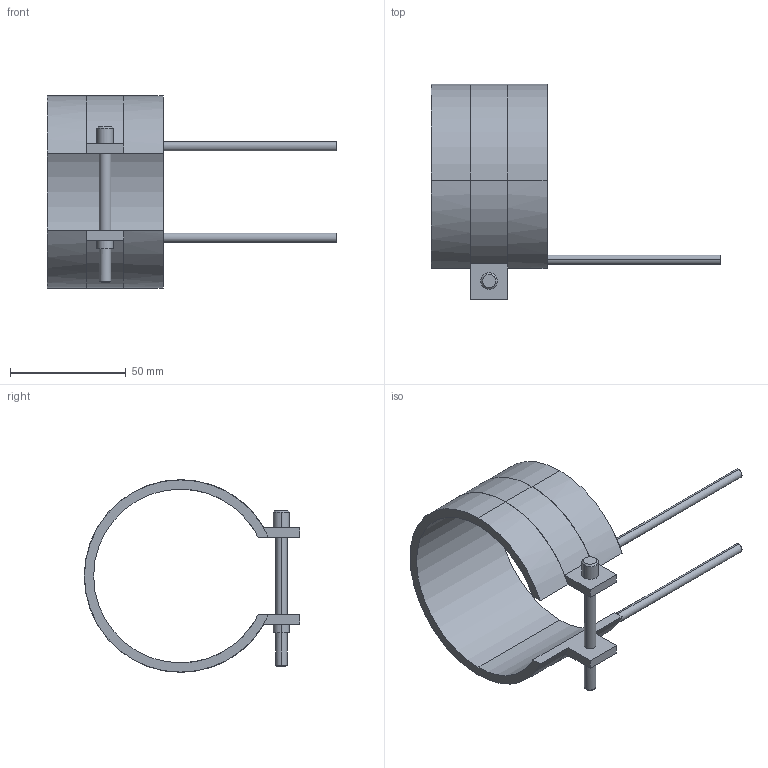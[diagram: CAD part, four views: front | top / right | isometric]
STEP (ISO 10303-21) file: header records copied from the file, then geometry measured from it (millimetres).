
FILE_DESCRIPTION(('CATIA V5 STEP Exchange'),'2;1');
FILE_NAME('C:\Users\Utente\Desktop\IO LAVORO\3D X SITO CF\X SITO\PLASTICA\RF2\14075050.stp','2021-04-03T08:43:03+00:00',('none'),('none'),'CATIA Version 5 Release 20 GA (IN-10)','CATIA V5 STEP AP203','none');
FILE_SCHEMA(('CONFIG_CONTROL_DESIGN'));
Length unit declared in the file: millimetre
Products named in the file (1): 14075050
Bounding box: 125 x 93.1 x 83.2 mm (x, y, z)
Volume: 48194.9 mm3; surface area: 27543.7 mm2
Topology: 1 solids, 1 shells, 45 faces, 116 edges, 76 vertices
Faces by surface type: cylinder 24, plane 17, cone 4
Entity records: 1406 total; most frequent: CARTESIAN_POINT 280, ORIENTED_EDGE 232, DIRECTION 196, EDGE_CURVE 116, AXIS2_PLACEMENT_3D 104, VERTEX_POINT 76, CIRCLE 62, VECTOR 52
